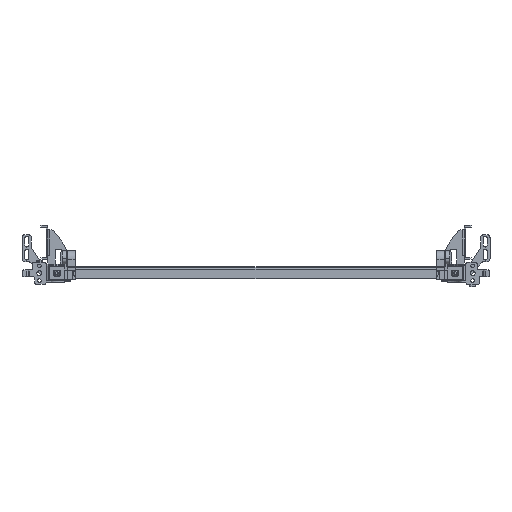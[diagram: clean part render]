
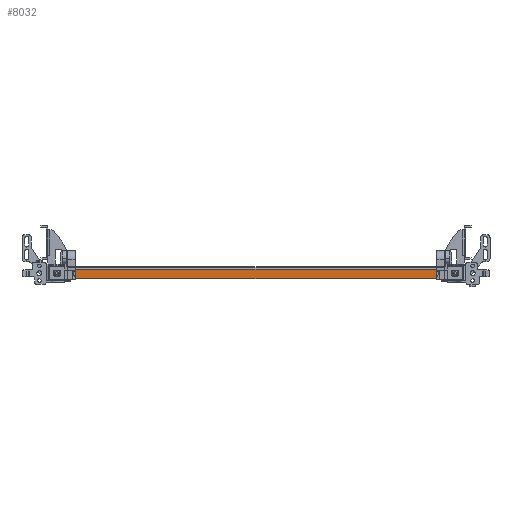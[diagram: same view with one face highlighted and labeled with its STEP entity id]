
A CAD part, front view. The second image highlights one B-rep face of the part: STEP entity #8032.
In plain terms, the highlighted planar face has unit normal (0, -1, 0).
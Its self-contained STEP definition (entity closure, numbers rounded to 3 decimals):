
#978 = EDGE_CURVE ( 'NONE', #5345, #20243, #19617, .T. ) ;
#1898 = CARTESIAN_POINT ( 'NONE',  ( -304.5, -848., -21. ) ) ;
#1971 = CARTESIAN_POINT ( 'NONE',  ( 305.5, -848., -21. ) ) ;
#2762 = AXIS2_PLACEMENT_3D ( 'NONE', #13302, #15147, #19308 ) ;
#2929 = ORIENTED_EDGE ( 'NONE', *, *, #978, .F. ) ;
#3214 = AXIS2_PLACEMENT_3D ( 'NONE', #5171, #12196, #5594 ) ;
#4343 = ORIENTED_EDGE ( 'NONE', *, *, #9361, .F. ) ;
#5171 = CARTESIAN_POINT ( 'NONE',  ( 304.5, -848., -20. ) ) ;
#5204 = DIRECTION ( 'NONE',  ( 0., 0., -1. ) ) ;
#5345 = VERTEX_POINT ( 'NONE', #14756 ) ;
#5594 = DIRECTION ( 'NONE',  ( 0., 0., 1. ) ) ;
#5650 = VERTEX_POINT ( 'NONE', #19292 ) ;
#5696 = EDGE_CURVE ( 'NONE', #20243, #11435, #21335, .T. ) ;
#5929 = CARTESIAN_POINT ( 'NONE',  ( -305.5, -848., -21. ) ) ;
#6339 = EDGE_CURVE ( 'NONE', #5650, #11435, #15677, .T. ) ;
#7429 = CARTESIAN_POINT ( 'NONE',  ( 305.5, -848., -20. ) ) ;
#7472 = EDGE_LOOP ( 'NONE', ( #16644, #12848, #4343, #11136, #15697, #2929 ) ) ;
#7919 = VERTEX_POINT ( 'NONE', #10850 ) ;
#8032 = ADVANCED_FACE ( 'NONE', ( #11172 ), #13408, .F. ) ;
#9314 = CARTESIAN_POINT ( 'NONE',  ( -304.5, -848., -20. ) ) ;
#9361 = EDGE_CURVE ( 'NONE', #5650, #13835, #12028, .T. ) ;
#9427 = DIRECTION ( 'NONE',  ( 0., 0., 1. ) ) ;
#10276 = CARTESIAN_POINT ( 'NONE',  ( 305.5, -848., -5. ) ) ;
#10850 = CARTESIAN_POINT ( 'NONE',  ( -305.5, -848., -20. ) ) ;
#11136 = ORIENTED_EDGE ( 'NONE', *, *, #6339, .T. ) ;
#11172 = FACE_OUTER_BOUND ( 'NONE', #7472, .T. ) ;
#11435 = VERTEX_POINT ( 'NONE', #7429 ) ;
#12028 = LINE ( 'NONE', #1971, #14555 ) ;
#12038 = EDGE_CURVE ( 'NONE', #7919, #5345, #12855, .T. ) ;
#12196 = DIRECTION ( 'NONE',  ( 0., -1., 0. ) ) ;
#12345 = DIRECTION ( 'NONE',  ( 0., -1., 0. ) ) ;
#12848 = ORIENTED_EDGE ( 'NONE', *, *, #14424, .T. ) ;
#12855 = LINE ( 'NONE', #5929, #14778 ) ;
#13302 = CARTESIAN_POINT ( 'NONE',  ( 0., -848., 0. ) ) ;
#13408 = PLANE ( 'NONE',  #2762 ) ;
#13835 = VERTEX_POINT ( 'NONE', #1898 ) ;
#14424 = EDGE_CURVE ( 'NONE', #7919, #13835, #17651, .T. ) ;
#14555 = VECTOR ( 'NONE', #18552, 1000. ) ;
#14756 = CARTESIAN_POINT ( 'NONE',  ( -305.5, -848., -5. ) ) ;
#14778 = VECTOR ( 'NONE', #17855, 1000. ) ;
#15147 = DIRECTION ( 'NONE',  ( 0., 1., 0. ) ) ;
#15677 = CIRCLE ( 'NONE', #3214, 1. ) ;
#15697 = ORIENTED_EDGE ( 'NONE', *, *, #5696, .F. ) ;
#16644 = ORIENTED_EDGE ( 'NONE', *, *, #12038, .F. ) ;
#17651 = CIRCLE ( 'NONE', #20413, 1. ) ;
#17855 = DIRECTION ( 'NONE',  ( 0., 0., 1. ) ) ;
#18431 = VECTOR ( 'NONE', #5204, 1000. ) ;
#18552 = DIRECTION ( 'NONE',  ( -1., 0., 0. ) ) ;
#18633 = DIRECTION ( 'NONE',  ( 1., 0., 0. ) ) ;
#19292 = CARTESIAN_POINT ( 'NONE',  ( 304.5, -848., -21. ) ) ;
#19308 = DIRECTION ( 'NONE',  ( 0., 0., 1. ) ) ;
#19363 = VECTOR ( 'NONE', #18633, 1000. ) ;
#19617 = LINE ( 'NONE', #10276, #19363 ) ;
#19894 = CARTESIAN_POINT ( 'NONE',  ( 305.5, -848., -5. ) ) ;
#20046 = CARTESIAN_POINT ( 'NONE',  ( 305.5, -848., -2.5 ) ) ;
#20243 = VERTEX_POINT ( 'NONE', #19894 ) ;
#20413 = AXIS2_PLACEMENT_3D ( 'NONE', #9314, #12345, #9427 ) ;
#21335 = LINE ( 'NONE', #20046, #18431 ) ;
